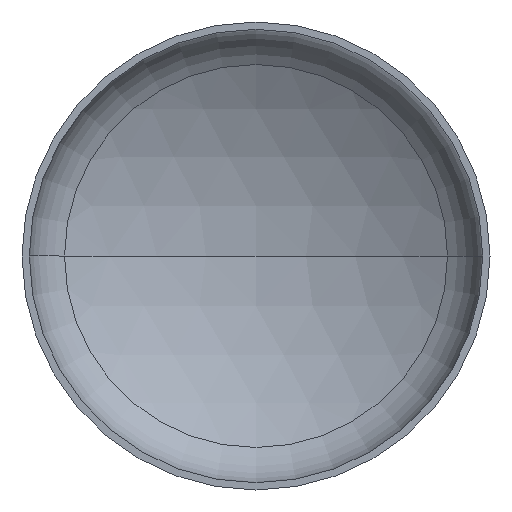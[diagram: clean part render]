
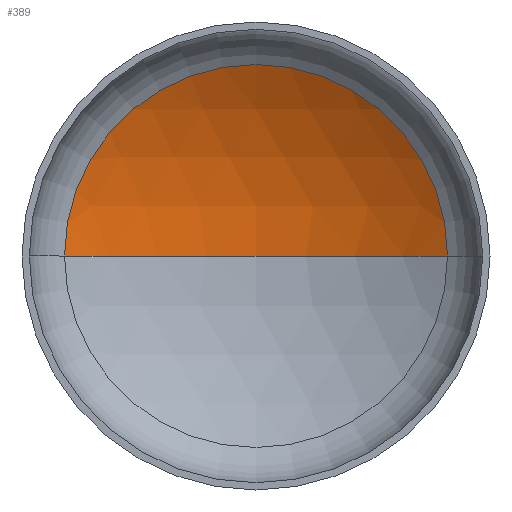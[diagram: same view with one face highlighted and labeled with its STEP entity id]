
A CAD part, front view. The second image highlights one B-rep face of the part: STEP entity #389.
In plain terms, the highlighted spherical face has radius 4000 mm.
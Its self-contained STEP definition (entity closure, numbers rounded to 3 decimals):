
#4 = AXIS2_PLACEMENT_3D ( 'NONE', #332, #185, #399 ) ;
#18 = EDGE_LOOP ( 'NONE', ( #151, #99, #57 ) ) ;
#22 = AXIS2_PLACEMENT_3D ( 'NONE', #139, #172, #350 ) ;
#24 = CARTESIAN_POINT ( 'NONE',  ( 0., -2655.571, 0. ) ) ;
#32 = AXIS2_PLACEMENT_3D ( 'NONE', #24, #211, #377 ) ;
#57 = ORIENTED_EDGE ( 'NONE', *, *, #333, .T. ) ;
#83 = VERTEX_POINT ( 'NONE', #315 ) ;
#99 = ORIENTED_EDGE ( 'NONE', *, *, #370, .T. ) ;
#132 = VERTEX_POINT ( 'NONE', #195 ) ;
#139 = CARTESIAN_POINT ( 'NONE',  ( 0., 781.669, 0. ) ) ;
#140 = AXIS2_PLACEMENT_3D ( 'NONE', #235, #256, #208 ) ;
#147 = FACE_OUTER_BOUND ( 'NONE', #18, .T. ) ;
#151 = ORIENTED_EDGE ( 'NONE', *, *, #367, .F. ) ;
#172 = DIRECTION ( 'NONE',  ( 0., -1., 0. ) ) ;
#185 = DIRECTION ( 'NONE',  ( 0., 0., 1. ) ) ;
#193 = CIRCLE ( 'NONE', #22, 2045.82 ) ;
#194 = CARTESIAN_POINT ( 'NONE',  ( -2045.82, 781.669, 0. ) ) ;
#195 = CARTESIAN_POINT ( 'NONE',  ( 2045.82, 781.669, 0. ) ) ;
#208 = DIRECTION ( 'NONE',  ( -1., 0., 0. ) ) ;
#211 = DIRECTION ( 'NONE',  ( 0., 0., -1. ) ) ;
#235 = CARTESIAN_POINT ( 'NONE',  ( 0., -2655.571, 0. ) ) ;
#240 = VERTEX_POINT ( 'NONE', #194 ) ;
#242 = CIRCLE ( 'NONE', #4, 4000. ) ;
#256 = DIRECTION ( 'NONE',  ( 0., 0., -1. ) ) ;
#315 = CARTESIAN_POINT ( 'NONE',  ( 0., 1344.429, 0. ) ) ;
#332 = CARTESIAN_POINT ( 'NONE',  ( 0., -2655.571, 0. ) ) ;
#333 = EDGE_CURVE ( 'NONE', #132, #240, #193, .T. ) ;
#350 = DIRECTION ( 'NONE',  ( 1., 0., 0. ) ) ;
#357 = SPHERICAL_SURFACE ( 'NONE', #140, 4000. ) ;
#363 = CIRCLE ( 'NONE', #32, 4000. ) ;
#367 = EDGE_CURVE ( 'NONE', #83, #240, #242, .T. ) ;
#370 = EDGE_CURVE ( 'NONE', #83, #132, #363, .T. ) ;
#377 = DIRECTION ( 'NONE',  ( -1., 0., 0. ) ) ;
#389 = ADVANCED_FACE ( 'NONE', ( #147 ), #357, .F. ) ;
#399 = DIRECTION ( 'NONE',  ( 1., 0., 0. ) ) ;
